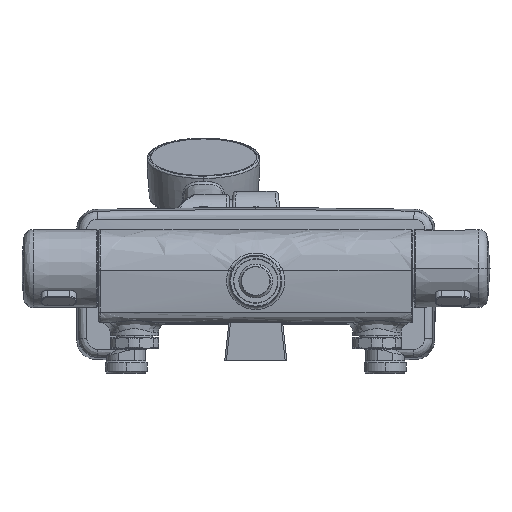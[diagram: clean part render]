
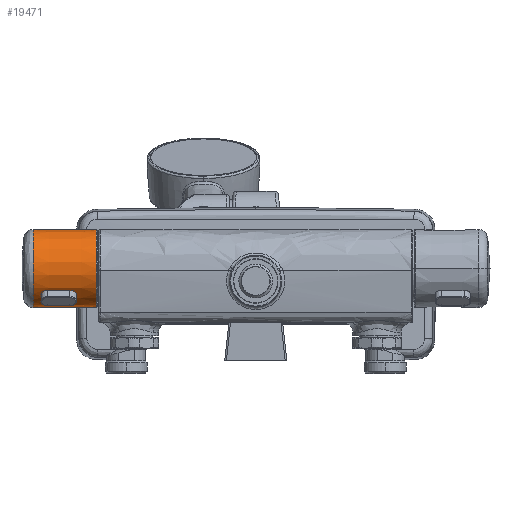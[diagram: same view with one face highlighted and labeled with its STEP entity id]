
A CAD part, front view. The second image highlights one B-rep face of the part: STEP entity #19471.
In plain terms, the highlighted conical face has half-angle 0.25 degrees and reference radius 24.172 mm.
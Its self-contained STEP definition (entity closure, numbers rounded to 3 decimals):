
#539 = CARTESIAN_POINT ( 'NONE',  ( -137.385, -420., 57. ) ) ;
#909 = AXIS2_PLACEMENT_3D ( 'NONE', #539, #3099, #10424 ) ;
#1393 = ORIENTED_EDGE ( 'NONE', *, *, #24783, .T. ) ;
#2214 = CARTESIAN_POINT ( 'NONE',  ( -137.385, -420., 32.828 ) ) ;
#3099 = DIRECTION ( 'NONE',  ( 1., 0., 0. ) ) ;
#3621 = VERTEX_POINT ( 'NONE', #14854 ) ;
#4633 = CONICAL_SURFACE ( 'NONE', #22876, 24.172, 0.004 ) ;
#4953 = ORIENTED_EDGE ( 'NONE', *, *, #16033, .T. ) ;
#5006 = CARTESIAN_POINT ( 'NONE',  ( -137.385, -420., 81.172 ) ) ;
#5233 = DIRECTION ( 'NONE',  ( -1., 0., 0.004 ) ) ;
#5768 = CARTESIAN_POINT ( 'NONE',  ( -137.385, -420., 57. ) ) ;
#7054 = ORIENTED_EDGE ( 'NONE', *, *, #31328, .T. ) ;
#10424 = DIRECTION ( 'NONE',  ( 0., 0., 1. ) ) ;
#11045 = CIRCLE ( 'NONE', #909, 24.172 ) ;
#11768 = VERTEX_POINT ( 'NONE', #24504 ) ;
#11893 = LINE ( 'NONE', #2214, #21400 ) ;
#12360 = EDGE_CURVE ( 'NONE', #32028, #11768, #11893, .T. ) ;
#13414 = DIRECTION ( 'NONE',  ( 0., 0., 1. ) ) ;
#14656 = VERTEX_POINT ( 'NONE', #26948 ) ;
#14854 = CARTESIAN_POINT ( 'NONE',  ( -137.385, -420., 81.172 ) ) ;
#15360 = ORIENTED_EDGE ( 'NONE', *, *, #12360, .F. ) ;
#15643 = FACE_OUTER_BOUND ( 'NONE', #26225, .T. ) ;
#16033 = EDGE_CURVE ( 'NONE', #32028, #14656, #21667, .T. ) ;
#18568 = DIRECTION ( 'NONE',  ( 0., 0., 1. ) ) ;
#18849 = CARTESIAN_POINT ( 'NONE',  ( -98.548, -420., 57. ) ) ;
#19471 = ADVANCED_FACE ( 'NONE', ( #15643 ), #4633, .T. ) ;
#21327 = CARTESIAN_POINT ( 'NONE',  ( -98.548, -420., 32.998 ) ) ;
#21400 = VECTOR ( 'NONE', #24748, 1000. ) ;
#21667 = CIRCLE ( 'NONE', #29096, 24.002 ) ;
#21817 = LINE ( 'NONE', #5006, #24954 ) ;
#22876 = AXIS2_PLACEMENT_3D ( 'NONE', #5768, #25999, #18568 ) ;
#23470 = DIRECTION ( 'NONE',  ( -1., 0., 0. ) ) ;
#24504 = CARTESIAN_POINT ( 'NONE',  ( -137.385, -420., 32.828 ) ) ;
#24748 = DIRECTION ( 'NONE',  ( -1., 0., -0.004 ) ) ;
#24783 = EDGE_CURVE ( 'NONE', #14656, #3621, #21817, .T. ) ;
#24954 = VECTOR ( 'NONE', #5233, 1000. ) ;
#25999 = DIRECTION ( 'NONE',  ( -1., 0., 0. ) ) ;
#26225 = EDGE_LOOP ( 'NONE', ( #15360, #4953, #1393, #7054 ) ) ;
#26948 = CARTESIAN_POINT ( 'NONE',  ( -98.548, -420., 81.002 ) ) ;
#29096 = AXIS2_PLACEMENT_3D ( 'NONE', #18849, #23470, #13414 ) ;
#31328 = EDGE_CURVE ( 'NONE', #3621, #11768, #11045, .T. ) ;
#32028 = VERTEX_POINT ( 'NONE', #21327 ) ;
